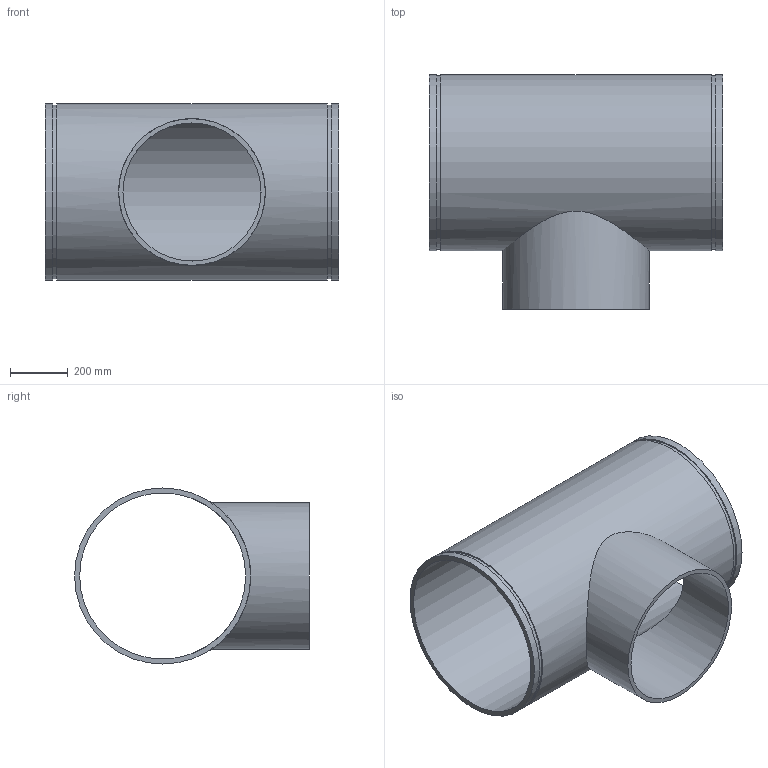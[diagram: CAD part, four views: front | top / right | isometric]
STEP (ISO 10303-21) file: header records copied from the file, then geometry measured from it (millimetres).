
FILE_DESCRIPTION(/* description */ ('VIC REDUCING TEE No 29T FFT (OGSxMPT)','CAx-IF Rec.Pracs.---Representation and Presentation of Product Manufacturing Information (PMI)---4.0---2014-10-13'),/* implementation_level */ '2;1');
FILE_NAME(/* name */ 'C:\Users\kkamble\AppData\Roaming\Autodesk\ApplicationPlugins\Back Up\Victaulic_IPS_Tee Reducing_No 29T FFT (OGSxMPT)\Victaulic_IPS_Tee Reducing_No 29T FFT (OGSxMPT)_24.0x20.0 (600x500).stp',/* time_stamp */ '2020-09-16T22:40:54+05:00',/* author */ ('CORINNE GRAY'),/* organization */ ('Victaulic'),/* preprocessor_version */ 'ST-DEVELOPER v17.2',/* originating_system */ 'Autodesk Inventor 2019',/* authorisation */ '');
FILE_SCHEMA (('AP242_MANAGED_MODEL_BASED_3D_ENGINEERING_MIM_LF { 1 0 10303 442 1 1 4 }'));
Length unit declared in the file: inch
Products named in the file (1): 29 FFT-24.0x20.0
Bounding box: 1016 x 812.8 x 609.6 mm (x, y, z)
Volume: 35367724.3 mm3; surface area: 4316931 mm2
Topology: 1 solids, 1 shells, 15 faces, 32 edges, 24 vertices
Faces by surface type: cylinder 8, plane 7
Full cylindrical faces by diameter (mm): 477.876 x1, 508 x1, 574.7 x1, 600.862 x2, 609.6 x3
Entity records: 813 total; most frequent: CARTESIAN_POINT 325, DIRECTION 106, ORIENTED_EDGE 64, AXIS2_PLACEMENT_3D 49, EDGE_CURVE 32, EDGE_LOOP 24, VERTEX_POINT 24, CIRCLE 20
